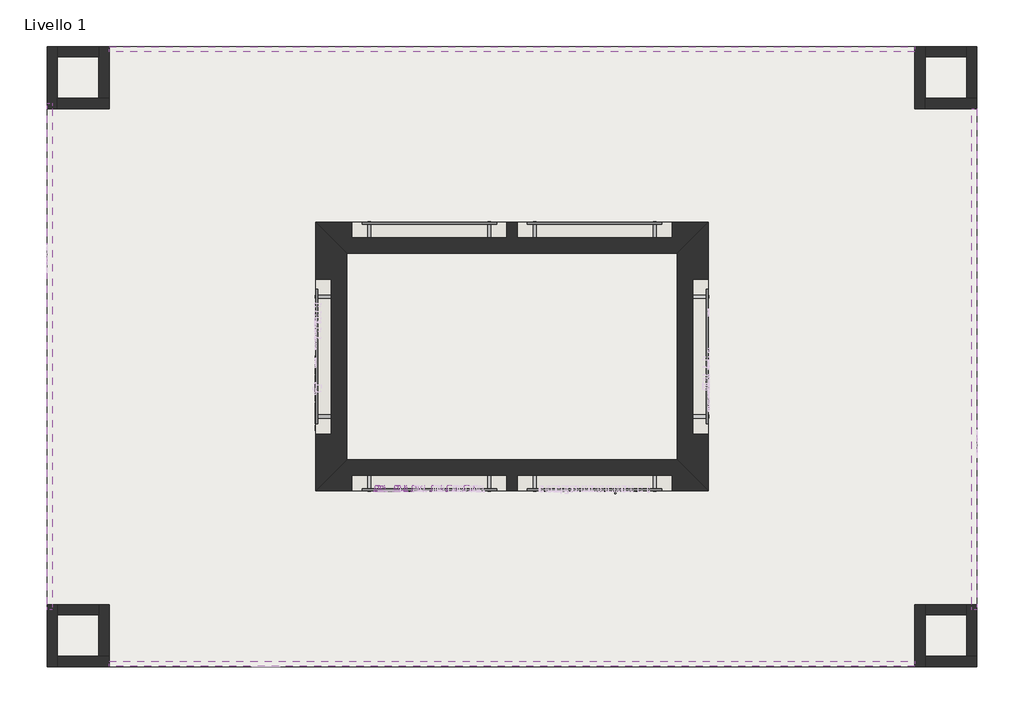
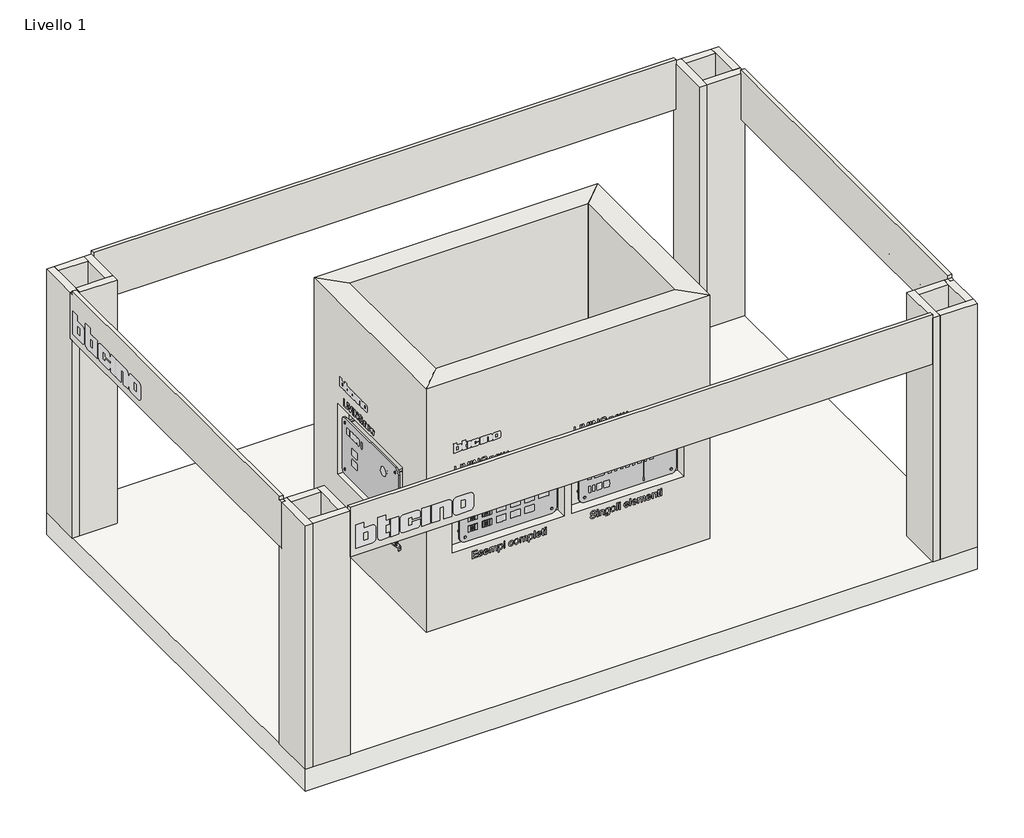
# One storey, part 1 of 4: 24 walls, 16 proxies, 16 switching devices, 6 furniture elements, 3 electric appliances, 1 slab.
"""IFC4 building model written with IfcOpenShell, lengths in millimetres."""

from ifc_helpers import new_model, si_unit, frame, origin, origin_with_axes, place, context, project, spatial, polyline, outline, extrude, faceted_brep, transform, mapped, element, save
from components import electrical_fixtures_71d92850, electrical_fixtures_f9fe39f6, communication_devices_3eb54693, electrical_fixtures_c0c311a9, electrical_fixtures_17be88af, electric_appliance_2f5c1887, electric_appliance_82e80eb8, pannellovetro_pannellovetro_b8c3e62e, pannellovetro_pannellovetro_4998db3f, electrical_fixtures_1fd5a0d3, electrical_fixtures_52576e28

model = new_model("IFC4")

# Units and contexts
model_context = context("Model", 3, world=origin())
ifc_project = project(units=[si_unit("LENGTHUNIT", "METRE", prefix="MILLI")], contexts=[model_context])

# Site, building, storey
site = spatial("IfcSite", under=ifc_project)
building = spatial("IfcBuilding", under=site)
storey = spatial("IfcBuildingStorey", under=building, Name="Livello 1", Elevation=0.0)

# Proxies
placement = place(None, origin())
electrical_fixtures_shape = electrical_fixtures_71d92850(model_context)
element("IfcBuildingElementProxy", 1, Name="BT_LN-ScatolaIncasso50x_ConPlacca : Scatola da incasso 504E - 4M - Placca Optic", ObjectType="BT_LN-ScatolaIncasso50x_ConPlacca : Scatola da incasso 504E - 4M - Placca Optic", at=placement, inside=storey, context=model_context, shape_type="MappedRepresentation", body=[
    mapped(electrical_fixtures_shape, transform((11166.3177461, 5069.1271843, 1758.0), x_axis=(1.0, 0.0, 0.0), y_axis=(0.0, 0.0, 1.0), z_axis=(0.0, -1.0, 0.0))),
])
electrical_fixtures_2_shape = electrical_fixtures_f9fe39f6(model_context)
element("IfcBuildingElementProxy", 2, Name="BT_LN-ScatolaIncasso50x_ConPlacca : Scatola da incasso 503E - 3M - Placca Rovere", ObjectType="BT_LN-ScatolaIncasso50x_ConPlacca : Scatola da incasso 503E - 3M - Placca Rovere", at=placement, inside=storey, context=model_context, shape_type="MappedRepresentation", body=[
    mapped(electrical_fixtures_2_shape, transform((11344.3177461, 5069.1271843, 1758.0), x_axis=(1.0, 0.0, 0.0), y_axis=(0.0, 0.0, 1.0), z_axis=(0.0, -1.0, 0.0))),
])
element("IfcBuildingElementProxy", 3, Name="BT_LN-ScatolaIncasso50x_ConPlacca : Scatola da incasso 503E - 3M - Placca Rovere", ObjectType="BT_LN-ScatolaIncasso50x_ConPlacca : Scatola da incasso 503E - 3M - Placca Rovere", at=placement, inside=storey, context=model_context, shape_type="MappedRepresentation", body=[
    mapped(electrical_fixtures_2_shape, transform((10793.8446289, 5069.1271843, 1420.7818091), x_axis=(1.0, 0.0, 0.0), y_axis=(0.0, 0.0, 1.0), z_axis=(0.0, -1.0, 0.0))),
])
communication_devices_shape = communication_devices_3eb54693(model_context)
element("IfcBuildingElementProxy", 4, Name="BT_LN-CoverDispositiviFalsiPoli : Falso polo - Art. K4950 - 1M - Cover Bianco", ObjectType="BT_LN-CoverDispositiviFalsiPoli : Falso polo - Art. K4950 - 1M - Cover Bianco", at=placement, inside=storey, context=model_context, shape_type="MappedRepresentation", body=[
    mapped(communication_devices_shape, transform((10815.8446289, 5119.1271843, 1758.0), x_axis=(1.0, 0.0, 0.0), y_axis=(0.0, 0.0, 1.0), z_axis=(0.0, -1.0, 0.0))),
])
element("IfcBuildingElementProxy", 5, Name="BT_LN-ScatolaIncasso50x_ConPlacca : Scatola da incasso 503E - 3M - Placca Space", ObjectType="BT_LN-ScatolaIncasso50x_ConPlacca : Scatola da incasso 503E - 3M - Placca Space", at=placement, inside=storey, context=model_context, shape_type="MappedRepresentation", body=[
    mapped(electrical_fixtures_2_shape, transform((11490.971355, 5069.1271843, 1758.0), x_axis=(1.0, 0.0, 0.0), y_axis=(0.0, 0.0, 1.0), z_axis=(0.0, -1.0, 0.0))),
])
element("IfcBuildingElementProxy", 6, Name="BT_LN-ScatolaIncasso50x_ConPlacca : Scatola da incasso 503E - 3M - Placca Ghiaccio", ObjectType="BT_LN-ScatolaIncasso50x_ConPlacca : Scatola da incasso 503E - 3M - Placca Ghiaccio", at=placement, inside=storey, context=model_context, shape_type="MappedRepresentation", body=[
    mapped(electrical_fixtures_2_shape, transform((10793.8446289, 5069.1271843, 1758.0), x_axis=(1.0, 0.0, 0.0), y_axis=(0.0, 0.0, 1.0), z_axis=(0.0, -1.0, 0.0))),
])
element("IfcBuildingElementProxy", 7, Name="BT_LN-ScatolaIncasso50x_ConPlacca : Scatola da incasso 504E - 4M - Placca Sky", ObjectType="BT_LN-ScatolaIncasso50x_ConPlacca : Scatola da incasso 504E - 4M - Placca Sky", at=placement, inside=storey, context=model_context, shape_type="MappedRepresentation", body=[
    mapped(electrical_fixtures_shape, transform((10993.8446289, 5069.1271843, 1758.0), x_axis=(1.0, 0.0, 0.0), y_axis=(0.0, 0.0, 1.0), z_axis=(0.0, -1.0, 0.0))),
])
electrical_fixtures_3_shape = electrical_fixtures_c0c311a9(model_context)
element("IfcBuildingElementProxy", 8, Name="BT_LN-PresaStandard_Ita-Ger : Prese standard Italia/Germania - Art.KW4140A16 - 2M - Cover Bianco", ObjectType="BT_LN-PresaStandard_Ita-Ger : Prese standard Italia/Germania - Art.KW4140A16 - 2M - Cover Bianco", at=placement, inside=storey, context=model_context, shape_type="MappedRepresentation", body=[
    mapped(electrical_fixtures_3_shape, transform((10971.8446289, 5119.1271843, 1758.0), x_axis=(1.0, 0.0, 0.0), y_axis=(0.0, 0.0, 1.0), z_axis=(0.0, -1.0, 0.0))),
])
element("IfcBuildingElementProxy", 9, Name="BT_LN-PresaStandard_Ita-Ger : Prese standard Italia/Germania - Art.KW4140A16 - 2M - Cover Bianco", ObjectType="BT_LN-PresaStandard_Ita-Ger : Prese standard Italia/Germania - Art.KW4140A16 - 2M - Cover Bianco", at=placement, inside=storey, context=model_context, shape_type="MappedRepresentation", body=[
    mapped(electrical_fixtures_3_shape, transform((11015.8446289, 5119.1271843, 1758.0), x_axis=(1.0, 0.0, 0.0), y_axis=(0.0, 0.0, 1.0), z_axis=(0.0, -1.0, 0.0))),
])
electrical_fixtures_4_shape = electrical_fixtures_17be88af(model_context)
element("IfcBuildingElementProxy", 10, Name="BT_LN-CoverDispositiviFalsiPoliConUscita : Cover Per Dispositivi Falsi Poli Con Uscita - Art. K4953 - 1M - Cover Sabbia", ObjectType="BT_LN-CoverDispositiviFalsiPoliConUscita : Cover Per Dispositivi Falsi Poli Con Uscita - Art. K4953 - 1M - Cover Sabbia", at=placement, inside=storey, context=model_context, shape_type="MappedRepresentation", body=[
    mapped(electrical_fixtures_4_shape, transform((11199.3177461, 5119.1271843, 1758.0), x_axis=(1.0, 0.0, 0.0), y_axis=(0.0, 0.0, 1.0), z_axis=(0.0, -1.0, 0.0))),
])
element("IfcBuildingElementProxy", 11, Name="BT_LN-ScatolaIncasso50x_ConPlacca : Scatola da incasso 503E - 3M - Placca Noce", ObjectType="BT_LN-ScatolaIncasso50x_ConPlacca : Scatola da incasso 503E - 3M - Placca Noce", at=placement, inside=storey, context=model_context, shape_type="MappedRepresentation", body=[
    mapped(electrical_fixtures_2_shape, transform((11658.471355, 5069.1271843, 1758.0), x_axis=(1.0, 0.0, 0.0), y_axis=(0.0, 0.0, 1.0), z_axis=(0.0, -1.0, 0.0))),
])
element("IfcBuildingElementProxy", 12, Name="BT_LN-ScatolaIncasso50x_ConPlacca : Scatola da incasso 503E - 3M - Placca Bianco", ObjectType="BT_LN-ScatolaIncasso50x_ConPlacca : Scatola da incasso 503E - 3M - Placca Bianco", at=placement, inside=storey, context=model_context, shape_type="MappedRepresentation", body=[
    mapped(electrical_fixtures_2_shape, transform((10793.8446289, 5069.1271843, 1570.7818091), x_axis=(1.0, 0.0, 0.0), y_axis=(0.0, 0.0, 1.0), z_axis=(0.0, -1.0, 0.0))),
])
element("IfcBuildingElementProxy", 13, Name="BT_LN-ScatolaIncasso50x_ConPlacca : Scatola da incasso 503E - 3M - Placca Oro", ObjectType="BT_LN-ScatolaIncasso50x_ConPlacca : Scatola da incasso 503E - 3M - Placca Oro", at=placement, inside=storey, context=model_context, shape_type="MappedRepresentation", body=[
    mapped(electrical_fixtures_2_shape, transform((10983.8446289, 5069.1271843, 1570.7818091), x_axis=(1.0, 0.0, 0.0), y_axis=(0.0, 0.0, 1.0), z_axis=(0.0, -1.0, 0.0))),
])
element("IfcBuildingElementProxy", 14, Name="BT_LN-ScatolaIncasso50x_ConPlacca : Scatola da incasso 503E - 3M - Placca Sabbia", ObjectType="BT_LN-ScatolaIncasso50x_ConPlacca : Scatola da incasso 503E - 3M - Placca Sabbia", at=placement, inside=storey, context=model_context, shape_type="MappedRepresentation", body=[
    mapped(electrical_fixtures_2_shape, transform((10983.8446289, 5069.1271843, 1420.7818091), x_axis=(1.0, 0.0, 0.0), y_axis=(0.0, 0.0, 1.0), z_axis=(0.0, -1.0, 0.0))),
])
element("IfcBuildingElementProxy", 15, Name="BT_LN-ScatolaIncasso50x_ConPlacca : Scatola da incasso 503E - 3M - Placca Acciaio", ObjectType="BT_LN-ScatolaIncasso50x_ConPlacca : Scatola da incasso 503E - 3M - Placca Acciaio", at=placement, inside=storey, context=model_context, shape_type="MappedRepresentation", body=[
    mapped(electrical_fixtures_2_shape, transform((10793.8446289, 5069.1271843, 1270.7818091), x_axis=(1.0, 0.0, 0.0), y_axis=(0.0, 0.0, 1.0), z_axis=(0.0, -1.0, 0.0))),
])
element("IfcBuildingElementProxy", 16, Name="BT_LN-ScatolaIncasso50x_ConPlacca : Scatola da incasso 503E - 3M - Placca Nero", ObjectType="BT_LN-ScatolaIncasso50x_ConPlacca : Scatola da incasso 503E - 3M - Placca Nero", at=placement, inside=storey, context=model_context, shape_type="MappedRepresentation", body=[
    mapped(electrical_fixtures_2_shape, transform((10983.8446289, 5069.1271843, 1270.7818091), x_axis=(1.0, 0.0, 0.0), y_axis=(0.0, 0.0, 1.0), z_axis=(0.0, -1.0, 0.0))),
])

# Electric appliances
electric_appliance_shape = electric_appliance_2f5c1887(model_context)
element("IfcElectricAppliance", 17, ObjectType="BT_LN-PresaRJ11 : Presa RJ11 - Art. KM4258RJ11 - 1M - Cover Sabbia", at=placement, inside=storey, context=model_context, shape_type="MappedRepresentation", body=[
    mapped(electric_appliance_shape, transform((11177.3177461, 5119.1271843, 1758.0), x_axis=(1.0, 0.0, 0.0), y_axis=(0.0, 0.0, 1.0), z_axis=(0.0, -1.0, 0.0))),
])
electric_appliance_2_shape = electric_appliance_82e80eb8(model_context)
element("IfcElectricAppliance", 18, ObjectType="BT_LN-PresaRJ45 : Presa RJ45 - Art. KM4279C6 - 1M - Cover Sabbia", at=placement, inside=storey, context=model_context, shape_type="MappedRepresentation", body=[
    mapped(electric_appliance_2_shape, transform((11133.3177461, 5119.1271843, 1758.0), x_axis=(1.0, 0.0, 0.0), y_axis=(0.0, 0.0, 1.0), z_axis=(0.0, -1.0, 0.0))),
])
element("IfcElectricAppliance", 19, ObjectType="BT_LN-PresaRJ45 : Presa RJ45 - Art. KM4279C6 - 1M - Cover Sabbia", at=placement, inside=storey, context=model_context, shape_type="MappedRepresentation", body=[
    mapped(electric_appliance_2_shape, transform((11155.3177461, 5119.1271843, 1758.0), x_axis=(1.0, 0.0, 0.0), y_axis=(0.0, 0.0, 1.0), z_axis=(0.0, -1.0, 0.0))),
])

# Furniture
pannellovetro_pannellovetro_shape = pannellovetro_pannellovetro_b8c3e62e(model_context)
element("IfcFurniture", 20, ObjectType="PannelloVetro : PannelloVetro", at=placement, inside=storey, context=model_context, shape_type="MappedRepresentation", body=[
    mapped(pannellovetro_pannellovetro_shape, transform((13973.8446289, 6369.1271843, 1500.0), x_axis=(0.0, -1.0, 0.0), y_axis=(0.0, 0.0, -1.0), z_axis=(1.0, 0.0, 0.0))),
])
element("IfcFurniture", 21, ObjectType="PannelloVetro : PannelloVetro", at=placement, inside=storey, context=model_context, shape_type="MappedRepresentation", body=[
    mapped(pannellovetro_pannellovetro_shape, transform((11273.8446289, 7669.1271843, 1500.0), x_axis=(1.0, 0.0, 0.0), y_axis=(0.0, 0.0, -1.0), z_axis=(0.0, 1.0, 0.0))),
])
element("IfcFurniture", 22, ObjectType="PannelloVetro : PannelloVetro", at=placement, inside=storey, context=model_context, shape_type="MappedRepresentation", body=[
    mapped(pannellovetro_pannellovetro_shape, transform((12873.8446289, 7669.1271843, 1500.0), x_axis=(1.0, 0.0, 0.0), y_axis=(0.0, 0.0, -1.0), z_axis=(0.0, 1.0, 0.0))),
])
pannellovetro_pannellovetro_2_shape = pannellovetro_pannellovetro_4998db3f(model_context)
element("IfcFurniture", 23, ObjectType="PannelloVetro : PannelloVetro", at=placement, inside=storey, context=model_context, shape_type="MappedRepresentation", body=[
    mapped(pannellovetro_pannellovetro_2_shape, transform((10173.8446289, 6369.1271843, 1500.0), x_axis=(0.0, -1.0, 0.0), y_axis=(0.0, 0.0, 1.0), z_axis=(-1.0, 0.0, 0.0))),
])
element("IfcFurniture", 24, ObjectType="PannelloVetro : PannelloVetro", at=placement, inside=storey, context=model_context, shape_type="MappedRepresentation", body=[
    mapped(pannellovetro_pannellovetro_2_shape, transform((11273.8446289, 5069.1271843, 1500.0), x_axis=(1.0, 0.0, 0.0), y_axis=(0.0, 0.0, 1.0), z_axis=(0.0, -1.0, 0.0))),
])
element("IfcFurniture", 25, ObjectType="PannelloVetro : PannelloVetro", at=placement, inside=storey, context=model_context, shape_type="MappedRepresentation", body=[
    mapped(pannellovetro_pannellovetro_2_shape, transform((12873.8446289, 5069.1271843, 1500.0), x_axis=(1.0, 0.0, 0.0), y_axis=(0.0, 0.0, 1.0), z_axis=(0.0, -1.0, 0.0))),
])

# Slab
element("IfcSlab", 26, ObjectType="Generico 300 mm", at=placement, inside=storey, context=model_context, shape_type="SweptSolid", body=[
    extrude(outline(polyline([(16573.8446289, 9369.1271843), (16573.8446289, 3369.1271843), (7573.8446289, 3369.1271843), (7573.8446289, 9369.1271843), (16573.8446289, 9369.1271843)])), frame((0.0, 0.0, -310.0), z_axis=(0.0, 0.0, 1.0), x_axis=(1.0, 0.0, 0.0)), (0.0, 0.0, 1.0), 310.0),
])

# Switching devices
electrical_fixtures_5_shape = electrical_fixtures_1fd5a0d3(model_context)
element("IfcSwitchingDevice", 27, ObjectType="BT_LN-Comandi_Principali : Comandi Principali - Art. K4005 - 2M - Cover Bianco", at=placement, inside=storey, context=model_context, shape_type="MappedRepresentation", body=[
    mapped(electrical_fixtures_5_shape, transform((10782.8446289, 5119.1271843, 1758.0), x_axis=(1.0, 0.0, 0.0), y_axis=(0.0, 0.0, 1.0), z_axis=(0.0, -1.0, 0.0))),
])
electrical_fixtures_6_shape = electrical_fixtures_52576e28(model_context)
element("IfcSwitchingDevice", 28, ObjectType="BT_LN-Comandi_Principali : Comandi Principali - Art. K4001 - 1M - Cover Sabbia", at=placement, inside=storey, context=model_context, shape_type="MappedRepresentation", body=[
    mapped(electrical_fixtures_6_shape, transform((10771.8446289, 5119.1271843, 1420.7818091), x_axis=(1.0, 0.0, 0.0), y_axis=(0.0, 0.0, 1.0), z_axis=(0.0, -1.0, 0.0))),
])
element("IfcSwitchingDevice", 29, ObjectType="BT_LN-Comandi_Principali : Comandi Principali - Art. K4001 - 1M - Cover Sabbia", at=placement, inside=storey, context=model_context, shape_type="MappedRepresentation", body=[
    mapped(electrical_fixtures_6_shape, transform((10793.8446289, 5119.1271843, 1420.7818091), x_axis=(1.0, 0.0, 0.0), y_axis=(0.0, 0.0, 1.0), z_axis=(0.0, -1.0, 0.0))),
])
element("IfcSwitchingDevice", 30, ObjectType="BT_LN-Comandi_Principali : Comandi Principali - Art. K4001 - 1M - Cover Sabbia", at=placement, inside=storey, context=model_context, shape_type="MappedRepresentation", body=[
    mapped(electrical_fixtures_6_shape, transform((10815.8446289, 5119.1271843, 1420.7818091), x_axis=(1.0, 0.0, 0.0), y_axis=(0.0, 0.0, 1.0), z_axis=(0.0, -1.0, 0.0))),
])
element("IfcSwitchingDevice", 31, ObjectType="BT_LN-Comandi_Principali : Comandi Principali - Art. K4001 - 1M - Cover Sabbia", at=placement, inside=storey, context=model_context, shape_type="MappedRepresentation", body=[
    mapped(electrical_fixtures_6_shape, transform((10961.8446289, 5119.1271843, 1420.7818091), x_axis=(1.0, 0.0, 0.0), y_axis=(0.0, 0.0, 1.0), z_axis=(0.0, -1.0, 0.0))),
])
element("IfcSwitchingDevice", 32, ObjectType="BT_LN-Comandi_Principali : Comandi Principali - Art. K4001 - 1M - Cover Sabbia", at=placement, inside=storey, context=model_context, shape_type="MappedRepresentation", body=[
    mapped(electrical_fixtures_6_shape, transform((10983.8446289, 5119.1271843, 1420.7818091), x_axis=(1.0, 0.0, 0.0), y_axis=(0.0, 0.0, 1.0), z_axis=(0.0, -1.0, 0.0))),
])
element("IfcSwitchingDevice", 33, ObjectType="BT_LN-Comandi_Principali : Comandi Principali - Art. K4001 - 1M - Cover Nero", at=placement, inside=storey, context=model_context, shape_type="MappedRepresentation", body=[
    mapped(electrical_fixtures_6_shape, transform((10771.8446289, 5119.1271843, 1270.7818091), x_axis=(1.0, 0.0, 0.0), y_axis=(0.0, 0.0, 1.0), z_axis=(0.0, -1.0, 0.0))),
])
element("IfcSwitchingDevice", 34, ObjectType="BT_LN-Comandi_Principali : Comandi Principali - Art. K4001 - 1M - Cover Nero", at=placement, inside=storey, context=model_context, shape_type="MappedRepresentation", body=[
    mapped(electrical_fixtures_6_shape, transform((10793.8446289, 5119.1271843, 1270.7818091), x_axis=(1.0, 0.0, 0.0), y_axis=(0.0, 0.0, 1.0), z_axis=(0.0, -1.0, 0.0))),
])
element("IfcSwitchingDevice", 35, ObjectType="BT_LN-Comandi_Principali : Comandi Principali - Art. K4001 - 1M - Cover Nero", at=placement, inside=storey, context=model_context, shape_type="MappedRepresentation", body=[
    mapped(electrical_fixtures_6_shape, transform((10815.8446289, 5119.1271843, 1270.7818091), x_axis=(1.0, 0.0, 0.0), y_axis=(0.0, 0.0, 1.0), z_axis=(0.0, -1.0, 0.0))),
])
element("IfcSwitchingDevice", 36, ObjectType="BT_LN-Comandi_Principali : Comandi Principali - Art. K4001 - 1M - Cover Nero", at=placement, inside=storey, context=model_context, shape_type="MappedRepresentation", body=[
    mapped(electrical_fixtures_6_shape, transform((10961.8446289, 5119.1271843, 1270.7818091), x_axis=(1.0, 0.0, 0.0), y_axis=(0.0, 0.0, 1.0), z_axis=(0.0, -1.0, 0.0))),
])
element("IfcSwitchingDevice", 37, ObjectType="BT_LN-Comandi_Principali : Comandi Principali - Art. K4001 - 1M - Cover Nero", at=placement, inside=storey, context=model_context, shape_type="MappedRepresentation", body=[
    mapped(electrical_fixtures_6_shape, transform((10983.8446289, 5119.1271843, 1270.7818091), x_axis=(1.0, 0.0, 0.0), y_axis=(0.0, 0.0, 1.0), z_axis=(0.0, -1.0, 0.0))),
])
element("IfcSwitchingDevice", 38, ObjectType="BT_LN-Comandi_Principali : Comandi Principali - Art. K4001 - 1M - Cover Bianco", at=placement, inside=storey, context=model_context, shape_type="MappedRepresentation", body=[
    mapped(electrical_fixtures_6_shape, transform((10771.8446289, 5119.1271843, 1570.7818091), x_axis=(1.0, 0.0, 0.0), y_axis=(0.0, 0.0, 1.0), z_axis=(0.0, -1.0, 0.0))),
])
element("IfcSwitchingDevice", 39, ObjectType="BT_LN-Comandi_Principali : Comandi Principali - Art. K4001 - 1M - Cover Bianco", at=placement, inside=storey, context=model_context, shape_type="MappedRepresentation", body=[
    mapped(electrical_fixtures_6_shape, transform((10793.8446289, 5119.1271843, 1570.7818091), x_axis=(1.0, 0.0, 0.0), y_axis=(0.0, 0.0, 1.0), z_axis=(0.0, -1.0, 0.0))),
])
element("IfcSwitchingDevice", 40, ObjectType="BT_LN-Comandi_Principali : Comandi Principali - Art. K4001 - 1M - Cover Bianco", at=placement, inside=storey, context=model_context, shape_type="MappedRepresentation", body=[
    mapped(electrical_fixtures_6_shape, transform((10815.8446289, 5119.1271843, 1570.7818091), x_axis=(1.0, 0.0, 0.0), y_axis=(0.0, 0.0, 1.0), z_axis=(0.0, -1.0, 0.0))),
])
element("IfcSwitchingDevice", 41, ObjectType="BT_LN-Comandi_Principali : Comandi Principali - Art. K4001 - 1M - Cover Bianco", at=placement, inside=storey, context=model_context, shape_type="MappedRepresentation", body=[
    mapped(electrical_fixtures_6_shape, transform((10961.8446289, 5119.1271843, 1570.7818091), x_axis=(1.0, 0.0, 0.0), y_axis=(0.0, 0.0, 1.0), z_axis=(0.0, -1.0, 0.0))),
])
element("IfcSwitchingDevice", 42, ObjectType="BT_LN-Comandi_Principali : Comandi Principali - Art. K4001 - 1M - Cover Bianco", at=placement, inside=storey, context=model_context, shape_type="MappedRepresentation", body=[
    mapped(electrical_fixtures_6_shape, transform((10983.8446289, 5119.1271843, 1570.7818091), x_axis=(1.0, 0.0, 0.0), y_axis=(0.0, 0.0, 1.0), z_axis=(0.0, -1.0, 0.0))),
])

# Walls
element("IfcWall", 43, ObjectType="Veletta 5 cm", at=placement, inside=storey, context=model_context, shape_type="Brep", body=[
    faceted_brep([(8173.8446289, 3369.1271843, 2800.0), (15973.8446289, 3369.1271843, 2800.0), (15973.8446289, 3369.1271843, 3450.0), (15973.8446289, 3369.1271843, 3500.0), (8173.8446289, 3369.1271843, 3500.0), (8173.8446289, 3369.1271843, 3450.0), (8173.8446289, 3419.1271843, 2800.0), (8173.8446289, 3419.1271843, 3500.0), (15973.8446289, 3419.1271843, 3500.0), (15973.8446289, 3419.1271843, 2800.0)], [[[0, 1, 2, 3, 4, 5]], [[6, 7, 8, 9]], [[1, 0, 6, 9]], [[4, 3, 8, 7]], [[0, 5, 4, 7, 6]], [[3, 2, 1, 9, 8]]]),
])
element("IfcWall", 44, ObjectType="Veletta 5 cm", at=placement, inside=storey, context=model_context, shape_type="Brep", body=[
    faceted_brep([(7573.8446289, 8819.1271843, 2800.0), (7573.8446289, 8769.1271843, 2800.0), (7573.8446289, 3969.1271843, 2800.0), (7573.8446289, 3919.1271843, 2800.0), (7573.8446289, 3919.1271843, 3450.0), (7573.8446289, 3969.1271843, 3450.0), (7573.8446289, 3969.1271843, 3500.0), (7573.8446289, 8769.1271843, 3500.0), (7573.8446289, 8769.1271843, 3450.0), (7573.8446289, 8819.1271843, 3450.0), (7623.8446289, 3919.1271843, 2800.0), (7623.8446289, 3969.1271843, 2800.0), (7623.8446289, 8769.1271843, 2800.0), (7623.8446289, 8819.1271843, 2800.0), (7623.8446289, 8819.1271843, 3450.0), (7623.8446289, 8769.1271843, 3450.0), (7623.8446289, 8769.1271843, 3500.0), (7623.8446289, 3969.1271843, 3500.0), (7623.8446289, 3969.1271843, 3450.0), (7623.8446289, 3919.1271843, 3450.0)], [[[0, 1, 2, 3, 4, 5, 6, 7, 8, 9]], [[10, 11, 12, 13, 14, 15, 16, 17, 18, 19]], [[3, 2, 1, 0, 13, 12, 11, 10]], [[3, 10, 19, 4]], [[6, 17, 16, 7]], [[13, 0, 9, 14]], [[18, 5, 4, 19]], [[5, 18, 17, 6]], [[8, 15, 14, 9]], [[15, 8, 7, 16]]]),
])
element("IfcWall", 45, ObjectType="Veletta 5 cm", at=placement, inside=storey, context=model_context, shape_type="Brep", body=[
    faceted_brep([(8173.8446289, 9319.1271843, 2800.0), (15973.8446289, 9319.1271843, 2800.0), (15973.8446289, 9319.1271843, 3500.0), (8173.8446289, 9319.1271843, 3500.0), (8173.8446289, 9369.1271843, 2800.0), (8173.8446289, 9369.1271843, 3450.0), (8173.8446289, 9369.1271843, 3500.0), (15973.8446289, 9369.1271843, 3500.0), (15973.8446289, 9369.1271843, 3450.0), (15973.8446289, 9369.1271843, 2800.0)], [[[0, 1, 2, 3]], [[4, 5, 6, 7, 8, 9]], [[1, 0, 4, 9]], [[3, 2, 7, 6]], [[0, 3, 6, 5, 4]], [[2, 1, 9, 8, 7]]]),
])
element("IfcWall", 46, ObjectType="Veletta 5 cm", at=placement, inside=storey, context=model_context, shape_type="Brep", body=[
    faceted_brep([(16523.8446289, 8769.1271843, 2800.0), (16523.8446289, 3969.1271843, 2800.0), (16523.8446289, 3919.1271843, 2800.0), (16523.8446289, 3919.1271843, 3450.0), (16523.8446289, 3969.1271843, 3450.0), (16523.8446289, 3969.1271843, 3500.0), (16523.8446289, 8769.1271843, 3500.0), (16573.8446289, 3919.1271843, 2800.0), (16573.8446289, 3969.1271843, 2800.0), (16573.8446289, 8769.1271843, 2800.0), (16573.8446289, 8769.1271843, 3450.0), (16573.8446289, 8769.1271843, 3500.0), (16573.8446289, 3969.1271843, 3500.0), (16573.8446289, 3969.1271843, 3450.0), (16573.8446289, 3919.1271843, 3450.0)], [[[0, 1, 2, 3, 4, 5, 6]], [[7, 8, 9, 10, 11, 12, 13, 14]], [[2, 1, 0, 9, 8, 7]], [[2, 7, 14, 3]], [[11, 6, 5, 12]], [[0, 6, 11, 10, 9]], [[13, 4, 3, 14]], [[4, 13, 12, 5]]]),
])
element("IfcWall", 47, ObjectType="Generico - 100 mm", at=placement, inside=storey, context=model_context, shape_type="Brep", body=[
    faceted_brep([(7573.8446289, 9369.1271843, 0.0), (7573.8446289, 8769.1271843, 0.0), (7573.8446289, 8769.1271843, 2800.0), (7573.8446289, 8819.1271843, 2800.0), (7573.8446289, 8819.1271843, 3450.0), (7573.8446289, 9369.1271843, 3450.0), (7673.8446289, 8769.1271843, 0.0), (7673.8446289, 8869.1271843, 0.0), (7673.8446289, 9269.1271843, 0.0), (7673.8446289, 9369.1271843, 0.0), (7673.8446289, 9369.1271843, 3450.0), (7673.8446289, 9269.1271843, 3450.0), (7673.8446289, 8869.1271843, 3450.0), (7673.8446289, 8769.1271843, 3450.0), (7623.8446289, 8769.1271843, 3450.0), (7623.8446289, 8769.1271843, 2800.0), (7623.8446289, 8819.1271843, 3450.0), (7623.8446289, 8819.1271843, 2800.0)], [[[0, 1, 2, 3, 4, 5]], [[6, 7, 8, 9, 10, 11, 12, 13]], [[1, 0, 9, 8, 7, 6]], [[1, 6, 13, 14, 15, 2]], [[0, 5, 10, 9]], [[13, 12, 11, 10, 5, 4, 16, 14]], [[17, 15, 14, 16]], [[17, 3, 2, 15]], [[3, 17, 16, 4]]]),
])
element("IfcWall", 48, ObjectType="Generico - 100 mm", at=placement, inside=storey, context=model_context, shape_type="Brep", body=[
    faceted_brep([(7673.8446289, 8769.1271843, 0.0), (8173.8446289, 8769.1271843, 0.0), (8173.8446289, 8769.1271843, 3450.0), (7673.8446289, 8769.1271843, 3450.0), (7673.8446289, 8869.1271843, 0.0), (7673.8446289, 8869.1271843, 3450.0), (8073.8446289, 8869.1271843, 3450.0), (8173.8446289, 8869.1271843, 3450.0), (8173.8446289, 8869.1271843, 0.0), (8073.8446289, 8869.1271843, 0.0)], [[[0, 1, 2, 3]], [[4, 5, 6, 7, 8, 9]], [[1, 0, 4, 9, 8]], [[0, 3, 5, 4]], [[2, 1, 8, 7]], [[3, 2, 7, 6, 5]]]),
])
element("IfcWall", 49, ObjectType="Generico - 100 mm", at=placement, inside=storey, context=model_context, shape_type="Brep", body=[
    faceted_brep([(8173.8446289, 8869.1271843, 0.0), (8173.8446289, 9369.1271843, 0.0), (8173.8446289, 9369.1271843, 2800.0), (8173.8446289, 9369.1271843, 3450.0), (8173.8446289, 8869.1271843, 3450.0), (8073.8446289, 8869.1271843, 0.0), (8073.8446289, 8869.1271843, 3450.0), (8073.8446289, 9269.1271843, 3450.0), (8073.8446289, 9369.1271843, 3450.0), (8073.8446289, 9369.1271843, 0.0), (8073.8446289, 9269.1271843, 0.0)], [[[0, 1, 2, 3, 4]], [[5, 6, 7, 8, 9, 10]], [[1, 0, 5, 10, 9]], [[0, 4, 6, 5]], [[4, 3, 8, 7, 6]], [[1, 9, 8, 3, 2]]]),
])
element("IfcWall", 50, ObjectType="Generico - 100 mm", at=placement, inside=storey, context=model_context, shape_type="SweptSolid", body=[
    extrude(outline(polyline([(7673.8446289, 9369.1271843), (8073.8446289, 9369.1271843), (8073.8446289, 9269.1271843), (7673.8446289, 9269.1271843), (7673.8446289, 9369.1271843)])), origin_with_axes(), (0.0, 0.0, 1.0), 3450.0),
])
element("IfcWall", 51, ObjectType="Generico - 100 mm", at=placement, inside=storey, context=model_context, shape_type="Brep", body=[
    faceted_brep([(15973.8446289, 9369.1271843, 3450.0), (15973.8446289, 9369.1271843, 2800.0), (15973.8446289, 9369.1271843, 0.0), (15973.8446289, 8769.1271843, 0.0), (15973.8446289, 8769.1271843, 3450.0), (16073.8446289, 9369.1271843, 0.0), (16073.8446289, 9369.1271843, 3450.0), (16073.8446289, 9269.1271843, 3450.0), (16073.8446289, 8869.1271843, 3450.0), (16073.8446289, 8769.1271843, 3450.0), (16073.8446289, 8769.1271843, 0.0), (16073.8446289, 8869.1271843, 0.0), (16073.8446289, 9269.1271843, 0.0)], [[[0, 1, 2, 3, 4]], [[5, 6, 7, 8, 9, 10, 11, 12]], [[3, 2, 5, 12, 11, 10]], [[4, 3, 10, 9]], [[0, 4, 9, 8, 7, 6]], [[0, 6, 5, 2, 1]]]),
])
element("IfcWall", 52, ObjectType="Generico - 100 mm", at=placement, inside=storey, context=model_context, shape_type="Brep", body=[
    faceted_brep([(16073.8446289, 8769.1271843, 0.0), (16573.8446289, 8769.1271843, 0.0), (16573.8446289, 8769.1271843, 2800.0), (16573.8446289, 8769.1271843, 3450.0), (16073.8446289, 8769.1271843, 3450.0), (16073.8446289, 8869.1271843, 0.0), (16073.8446289, 8869.1271843, 3450.0), (16473.8446289, 8869.1271843, 3450.0), (16573.8446289, 8869.1271843, 3450.0), (16573.8446289, 8869.1271843, 0.0), (16473.8446289, 8869.1271843, 0.0)], [[[0, 1, 2, 3, 4]], [[5, 6, 7, 8, 9, 10]], [[1, 0, 5, 10, 9]], [[0, 4, 6, 5]], [[4, 3, 8, 7, 6]], [[1, 9, 8, 3, 2]]]),
])
element("IfcWall", 53, ObjectType="Generico - 100 mm", at=placement, inside=storey, context=model_context, shape_type="Brep", body=[
    faceted_brep([(16573.8446289, 8869.1271843, 3450.0), (16573.8446289, 8869.1271843, 0.0), (16573.8446289, 9369.1271843, 0.0), (16573.8446289, 9369.1271843, 3450.0), (16473.8446289, 8869.1271843, 0.0), (16473.8446289, 8869.1271843, 3450.0), (16473.8446289, 9269.1271843, 3450.0), (16473.8446289, 9369.1271843, 3450.0), (16473.8446289, 9369.1271843, 0.0), (16473.8446289, 9269.1271843, 0.0)], [[[0, 1, 2, 3]], [[4, 5, 6, 7, 8, 9]], [[2, 1, 4, 9, 8]], [[3, 2, 8, 7]], [[0, 3, 7, 6, 5]], [[0, 5, 4, 1]]]),
])
element("IfcWall", 54, ObjectType="Generico - 100 mm", at=placement, inside=storey, context=model_context, shape_type="SweptSolid", body=[
    extrude(outline(polyline([(16073.8446289, 9369.1271843), (16473.8446289, 9369.1271843), (16473.8446289, 9269.1271843), (16073.8446289, 9269.1271843), (16073.8446289, 9369.1271843)])), origin_with_axes(), (0.0, 0.0, 1.0), 3450.0),
])
element("IfcWall", 55, ObjectType="Generico - 100 mm", at=placement, inside=storey, context=model_context, shape_type="Brep", body=[
    faceted_brep([(7573.8446289, 3969.1271843, 0.0), (7573.8446289, 3369.1271843, 0.0), (7573.8446289, 3369.1271843, 3450.0), (7573.8446289, 3919.1271843, 3450.0), (7573.8446289, 3919.1271843, 2800.0), (7573.8446289, 3969.1271843, 2800.0), (7673.8446289, 3369.1271843, 0.0), (7673.8446289, 3469.1271843, 0.0), (7673.8446289, 3869.1271843, 0.0), (7673.8446289, 3969.1271843, 0.0), (7673.8446289, 3969.1271843, 3450.0), (7673.8446289, 3869.1271843, 3450.0), (7673.8446289, 3469.1271843, 3450.0), (7673.8446289, 3369.1271843, 3450.0), (7623.8446289, 3969.1271843, 2800.0), (7623.8446289, 3969.1271843, 3450.0), (7623.8446289, 3919.1271843, 3450.0), (7623.8446289, 3919.1271843, 2800.0)], [[[0, 1, 2, 3, 4, 5]], [[6, 7, 8, 9, 10, 11, 12, 13]], [[1, 0, 9, 8, 7, 6]], [[2, 1, 6, 13]], [[10, 9, 0, 5, 14, 15]], [[2, 13, 12, 11, 10, 15, 16, 3]], [[14, 17, 16, 15]], [[4, 17, 14, 5]], [[17, 4, 3, 16]]]),
])
element("IfcWall", 56, ObjectType="Generico - 100 mm", at=placement, inside=storey, context=model_context, shape_type="Brep", body=[
    faceted_brep([(7673.8446289, 3369.1271843, 0.0), (8173.8446289, 3369.1271843, 0.0), (8173.8446289, 3369.1271843, 2800.0), (8173.8446289, 3369.1271843, 3450.0), (7673.8446289, 3369.1271843, 3450.0), (7673.8446289, 3469.1271843, 0.0), (7673.8446289, 3469.1271843, 3450.0), (8073.8446289, 3469.1271843, 3450.0), (8173.8446289, 3469.1271843, 3450.0), (8173.8446289, 3469.1271843, 0.0), (8073.8446289, 3469.1271843, 0.0)], [[[0, 1, 2, 3, 4]], [[5, 6, 7, 8, 9, 10]], [[1, 0, 5, 10, 9]], [[0, 4, 6, 5]], [[3, 2, 1, 9, 8]], [[4, 3, 8, 7, 6]]]),
])
element("IfcWall", 57, ObjectType="Generico - 100 mm", at=placement, inside=storey, context=model_context, shape_type="Brep", body=[
    faceted_brep([(8173.8446289, 3469.1271843, 0.0), (8173.8446289, 3969.1271843, 0.0), (8173.8446289, 3969.1271843, 3450.0), (8173.8446289, 3469.1271843, 3450.0), (8073.8446289, 3469.1271843, 0.0), (8073.8446289, 3469.1271843, 3450.0), (8073.8446289, 3869.1271843, 3450.0), (8073.8446289, 3969.1271843, 3450.0), (8073.8446289, 3969.1271843, 0.0), (8073.8446289, 3869.1271843, 0.0)], [[[0, 1, 2, 3]], [[4, 5, 6, 7, 8, 9]], [[1, 0, 4, 9, 8]], [[0, 3, 5, 4]], [[2, 1, 8, 7]], [[3, 2, 7, 6, 5]]]),
])
element("IfcWall", 58, ObjectType="Generico - 100 mm", at=placement, inside=storey, context=model_context, shape_type="SweptSolid", body=[
    extrude(outline(polyline([(7673.8446289, 3969.1271843), (8073.8446289, 3969.1271843), (8073.8446289, 3869.1271843), (7673.8446289, 3869.1271843), (7673.8446289, 3969.1271843)])), origin_with_axes(), (0.0, 0.0, 1.0), 3450.0),
])
element("IfcWall", 59, ObjectType="Generico - 100 mm", at=placement, inside=storey, context=model_context, shape_type="Brep", body=[
    faceted_brep([(15973.8446289, 3969.1271843, 0.0), (15973.8446289, 3369.1271843, 0.0), (15973.8446289, 3369.1271843, 2800.0), (15973.8446289, 3369.1271843, 3450.0), (15973.8446289, 3969.1271843, 3450.0), (16073.8446289, 3969.1271843, 0.0), (16073.8446289, 3969.1271843, 3450.0), (16073.8446289, 3869.1271843, 3450.0), (16073.8446289, 3469.1271843, 3450.0), (16073.8446289, 3369.1271843, 3450.0), (16073.8446289, 3369.1271843, 0.0), (16073.8446289, 3469.1271843, 0.0), (16073.8446289, 3869.1271843, 0.0)], [[[0, 1, 2, 3, 4]], [[5, 6, 7, 8, 9, 10, 11, 12]], [[1, 0, 5, 12, 11, 10]], [[0, 4, 6, 5]], [[4, 3, 9, 8, 7, 6]], [[1, 10, 9, 3, 2]]]),
])
element("IfcWall", 60, ObjectType="Generico - 100 mm", at=placement, inside=storey, context=model_context, shape_type="Brep", body=[
    faceted_brep([(16073.8446289, 3369.1271843, 3450.0), (16073.8446289, 3369.1271843, 0.0), (16573.8446289, 3369.1271843, 0.0), (16573.8446289, 3369.1271843, 3450.0), (16073.8446289, 3469.1271843, 0.0), (16073.8446289, 3469.1271843, 3450.0), (16473.8446289, 3469.1271843, 3450.0), (16573.8446289, 3469.1271843, 3450.0), (16573.8446289, 3469.1271843, 0.0), (16473.8446289, 3469.1271843, 0.0)], [[[0, 1, 2, 3]], [[4, 5, 6, 7, 8, 9]], [[2, 1, 4, 9, 8]], [[3, 2, 8, 7]], [[0, 3, 7, 6, 5]], [[0, 5, 4, 1]]]),
])
element("IfcWall", 61, ObjectType="Generico - 100 mm", at=placement, inside=storey, context=model_context, shape_type="Brep", body=[
    faceted_brep([(16573.8446289, 3469.1271843, 0.0), (16573.8446289, 3969.1271843, 0.0), (16573.8446289, 3969.1271843, 2800.0), (16573.8446289, 3919.1271843, 2800.0), (16573.8446289, 3919.1271843, 3450.0), (16573.8446289, 3469.1271843, 3450.0), (16473.8446289, 3969.1271843, 0.0), (16473.8446289, 3869.1271843, 0.0), (16473.8446289, 3469.1271843, 0.0), (16473.8446289, 3469.1271843, 3450.0), (16473.8446289, 3869.1271843, 3450.0), (16473.8446289, 3969.1271843, 3450.0), (16523.8446289, 3969.1271843, 3450.0), (16523.8446289, 3969.1271843, 2800.0), (16523.8446289, 3919.1271843, 3450.0), (16523.8446289, 3919.1271843, 2800.0)], [[[0, 1, 2, 3, 4, 5]], [[6, 7, 8, 9, 10, 11]], [[1, 0, 8, 7, 6]], [[0, 5, 9, 8]], [[1, 6, 11, 12, 13, 2]], [[11, 10, 9, 5, 4, 14, 12]], [[14, 15, 13, 12]], [[15, 3, 2, 13]], [[3, 15, 14, 4]]]),
])
element("IfcWall", 62, ObjectType="Generico - 100 mm", at=placement, inside=storey, context=model_context, shape_type="SweptSolid", body=[
    extrude(outline(polyline([(16073.8446289, 3969.1271843), (16473.8446289, 3969.1271843), (16473.8446289, 3869.1271843), (16073.8446289, 3869.1271843), (16073.8446289, 3969.1271843)])), origin_with_axes(), (0.0, 0.0, 1.0), 3450.0),
])
element("IfcWall", 63, ObjectType="Generico - 300 mm", at=placement, inside=storey, context=model_context, shape_type="Brep", body=[
    faceted_brep([(10473.8446289, 7369.1271843, 0.0), (13673.8446289, 7369.1271843, 0.0), (13673.8446289, 7369.1271843, 3450.0), (10473.8446289, 7369.1271843, 3450.0), (13973.8446289, 7669.1271843, 0.0), (10173.8446289, 7669.1271843, 0.0), (10173.8446289, 7669.1271843, 3450.0), (13973.8446289, 7669.1271843, 3450.0), (10523.8446289, 7669.1271843, 2000.0), (10523.8446289, 7669.1271843, 1000.0), (12023.8446289, 7669.1271843, 1000.0), (12023.8446289, 7669.1271843, 2000.0), (12123.8446289, 7669.1271843, 2000.0), (12123.8446289, 7669.1271843, 1000.0), (13623.8446289, 7669.1271843, 1000.0), (13623.8446289, 7669.1271843, 2000.0), (10523.8446289, 7519.1271843, 2000.0), (12023.8446289, 7519.1271843, 2000.0), (12023.8446289, 7519.1271843, 1000.0), (10523.8446289, 7519.1271843, 1000.0), (12123.8446289, 7519.1271843, 2000.0), (13623.8446289, 7519.1271843, 2000.0), (13623.8446289, 7519.1271843, 1000.0), (12123.8446289, 7519.1271843, 1000.0)], [[[0, 1, 2, 3]], [[4, 5, 6, 7], [8, 9, 10, 11], [12, 13, 14, 15]], [[1, 0, 5, 4]], [[2, 1, 4, 7]], [[0, 3, 6, 5]], [[3, 2, 7, 6]], [[16, 17, 18, 19]], [[16, 19, 9, 8]], [[19, 18, 10, 9]], [[18, 17, 11, 10]], [[17, 16, 8, 11]], [[20, 21, 22, 23]], [[20, 23, 13, 12]], [[23, 22, 14, 13]], [[22, 21, 15, 14]], [[21, 20, 12, 15]]]),
])
element("IfcWall", 64, ObjectType="Generico - 300 mm", at=placement, inside=storey, context=model_context, shape_type="Brep", body=[
    faceted_brep([(13673.8446289, 7369.1271843, 0.0), (13673.8446289, 5369.1271843, 0.0), (13673.8446289, 5369.1271843, 3450.0), (13673.8446289, 7369.1271843, 3450.0), (13973.8446289, 5069.1271843, 0.0), (13973.8446289, 7669.1271843, 0.0), (13973.8446289, 7669.1271843, 3450.0), (13973.8446289, 5069.1271843, 3450.0), (13973.8446289, 7119.1271843, 2000.0), (13973.8446289, 7119.1271843, 1000.0), (13973.8446289, 5619.1271843, 1000.0), (13973.8446289, 5619.1271843, 2000.0), (13823.8446289, 7119.1271843, 2000.0), (13823.8446289, 5619.1271843, 2000.0), (13823.8446289, 5619.1271843, 1000.0), (13823.8446289, 7119.1271843, 1000.0)], [[[0, 1, 2, 3]], [[4, 5, 6, 7], [8, 9, 10, 11]], [[1, 0, 5, 4]], [[0, 3, 6, 5]], [[2, 1, 4, 7]], [[3, 2, 7, 6]], [[12, 13, 14, 15]], [[12, 15, 9, 8]], [[15, 14, 10, 9]], [[14, 13, 11, 10]], [[13, 12, 8, 11]]]),
])
element("IfcWall", 65, ObjectType="Generico - 300 mm", at=placement, inside=storey, context=model_context, shape_type="Brep", body=[
    faceted_brep([(13673.8446289, 5369.1271843, 0.0), (10473.8446289, 5369.1271843, 0.0), (10473.8446289, 5369.1271843, 3450.0), (13673.8446289, 5369.1271843, 3450.0), (10173.8446289, 5069.1271843, 0.0), (13973.8446289, 5069.1271843, 0.0), (13973.8446289, 5069.1271843, 3450.0), (10173.8446289, 5069.1271843, 3450.0), (10523.8446289, 5069.1271843, 1000.0), (10523.8446289, 5069.1271843, 2000.0), (12023.8446289, 5069.1271843, 2000.0), (12023.8446289, 5069.1271843, 1000.0), (12123.8446289, 5069.1271843, 1000.0), (12123.8446289, 5069.1271843, 2000.0), (13623.8446289, 5069.1271843, 2000.0), (13623.8446289, 5069.1271843, 1000.0), (10523.8446289, 5219.1271843, 2000.0), (10523.8446289, 5219.1271843, 1000.0), (12023.8446289, 5219.1271843, 1000.0), (12023.8446289, 5219.1271843, 2000.0), (12123.8446289, 5219.1271843, 2000.0), (12123.8446289, 5219.1271843, 1000.0), (13623.8446289, 5219.1271843, 1000.0), (13623.8446289, 5219.1271843, 2000.0)], [[[0, 1, 2, 3]], [[4, 5, 6, 7], [8, 9, 10, 11], [12, 13, 14, 15]], [[1, 0, 5, 4]], [[0, 3, 6, 5]], [[2, 1, 4, 7]], [[3, 2, 7, 6]], [[16, 17, 18, 19]], [[17, 16, 9, 8]], [[18, 17, 8, 11]], [[19, 18, 11, 10]], [[16, 19, 10, 9]], [[20, 21, 22, 23]], [[21, 20, 13, 12]], [[22, 21, 12, 15]], [[23, 22, 15, 14]], [[20, 23, 14, 13]]]),
])
element("IfcWall", 66, ObjectType="Generico - 300 mm", at=placement, inside=storey, context=model_context, shape_type="Brep", body=[
    faceted_brep([(10473.8446289, 5369.1271843, 0.0), (10473.8446289, 7369.1271843, 0.0), (10473.8446289, 7369.1271843, 3450.0), (10473.8446289, 5369.1271843, 3450.0), (10173.8446289, 7669.1271843, 0.0), (10173.8446289, 5069.1271843, 0.0), (10173.8446289, 5069.1271843, 3450.0), (10173.8446289, 7669.1271843, 3450.0), (10173.8446289, 7119.1271843, 1000.0), (10173.8446289, 7119.1271843, 2000.0), (10173.8446289, 5619.1271843, 2000.0), (10173.8446289, 5619.1271843, 1000.0), (10323.8446289, 7119.1271843, 2000.0), (10323.8446289, 7119.1271843, 1000.0), (10323.8446289, 5619.1271843, 1000.0), (10323.8446289, 5619.1271843, 2000.0)], [[[0, 1, 2, 3]], [[4, 5, 6, 7], [8, 9, 10, 11]], [[1, 0, 5, 4]], [[0, 3, 6, 5]], [[2, 1, 4, 7]], [[3, 2, 7, 6]], [[12, 13, 14, 15]], [[13, 12, 9, 8]], [[14, 13, 8, 11]], [[15, 14, 11, 10]], [[12, 15, 10, 9]]]),
])

save(model, "model.ifc")
